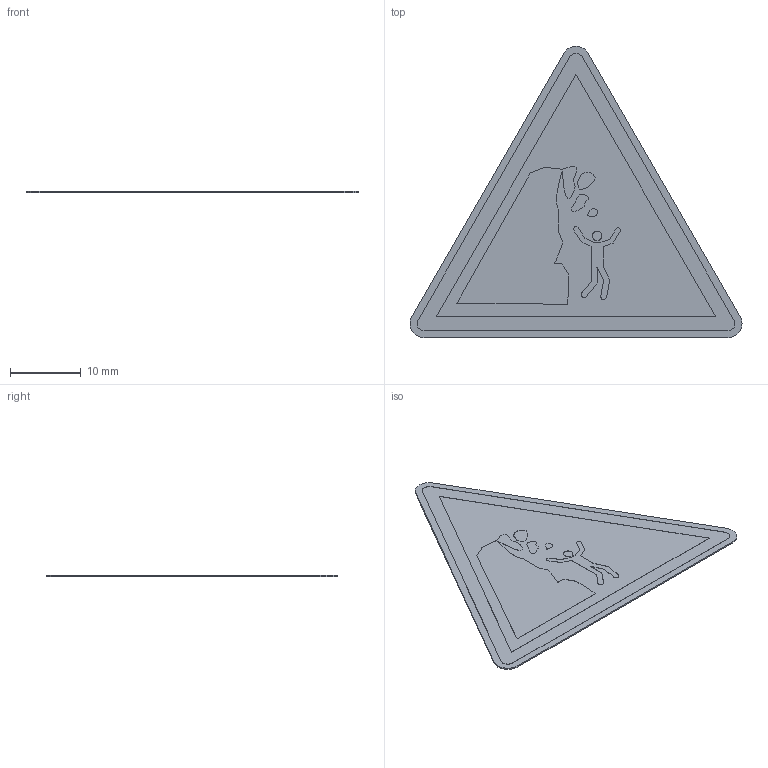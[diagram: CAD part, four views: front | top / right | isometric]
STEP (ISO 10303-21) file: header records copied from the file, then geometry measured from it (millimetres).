
FILE_DESCRIPTION (( 'STEP AP214' ), '1' );
FILE_NAME ('W053_Warnung vor Steinschlag von instabiler Klippe.STEP', '2022-03-04T06:02:36', ( '' ), ( '' ), 'SwSTEP 2.0', 'SolidWorks 2021', '' );
FILE_SCHEMA (( 'AUTOMOTIVE_DESIGN' ));
Length unit declared in the file: millimetre
Products named in the file (1): W053_Warnung vor Steinschlag von instabiler Klippe
Bounding box: 47.07 x 41.3 x 0.22 mm (x, y, z)
Volume: 224.3 mm3; surface area: 2184.9 mm2
Topology: 1 solids, 1 shells, 159 faces, 447 edges, 298 vertices
Faces by surface type: plane 139, cylinder 20
Entity records: 6745 total; most frequent: CARTESIAN_POINT 905, ORIENTED_EDGE 894, DIRECTION 807, EDGE_CURVE 447, VECTOR 407, LINE 407, VERTEX_POINT 298, AXIS2_PLACEMENT_3D 200
